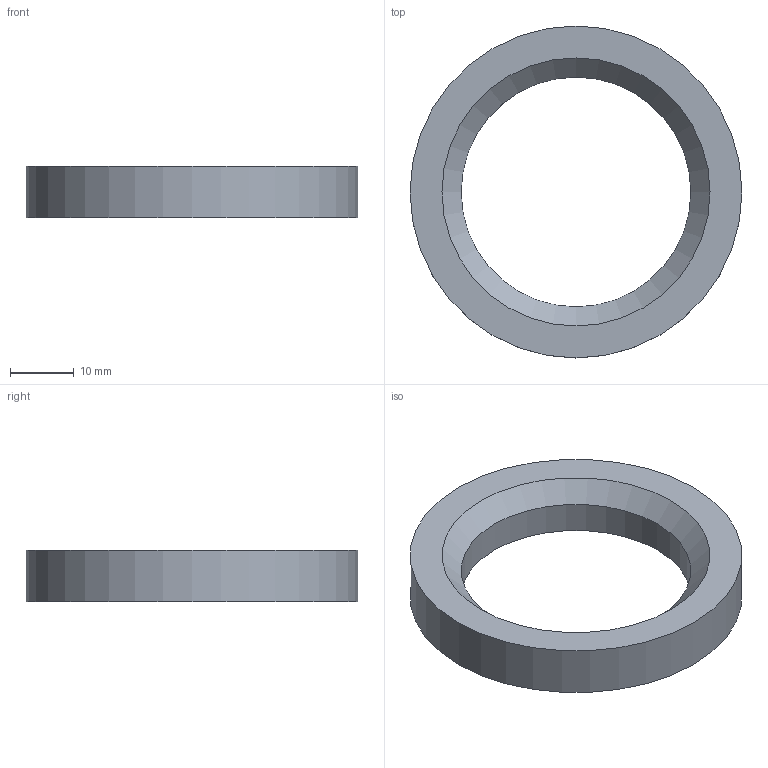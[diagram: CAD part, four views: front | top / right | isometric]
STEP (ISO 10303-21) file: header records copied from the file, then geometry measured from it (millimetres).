
FILE_DESCRIPTION(('Open CASCADE Model'),'2;1');
FILE_NAME('Open CASCADE Shape Model','2026-10-21T17:23:51',('Author'),( 'Open CASCADE'),'Open CASCADE STEP processor 7.9','Open CASCADE 7.9' ,'Unknown');
FILE_SCHEMA(('AUTOMOTIVE_DESIGN { 1 0 10303 214 1 1 1 1 }'));
Length unit declared in the file: millimetre
Products named in the file (1): Open CASCADE STEP translator 7.9 38
Bounding box: 52 x 52 x 8 mm (x, y, z)
Volume: 8309.5 mm3; surface area: 4236.3 mm2
Topology: 1 solids, 1 shells, 5 faces, 8 edges, 5 vertices
Faces by surface type: cylinder 2, plane 2, cone 1
Full cylindrical faces by diameter (mm): 36 x1, 52 x1
Entity records: 240 total; most frequent: CARTESIAN_POINT 41, DIRECTION 40, ORIENTED_EDGE 16, PCURVE 16, DEFINITIONAL_REPRESENTATION 16, LINE 15, VECTOR 15, AXIS2_PLACEMENT_3D 11
